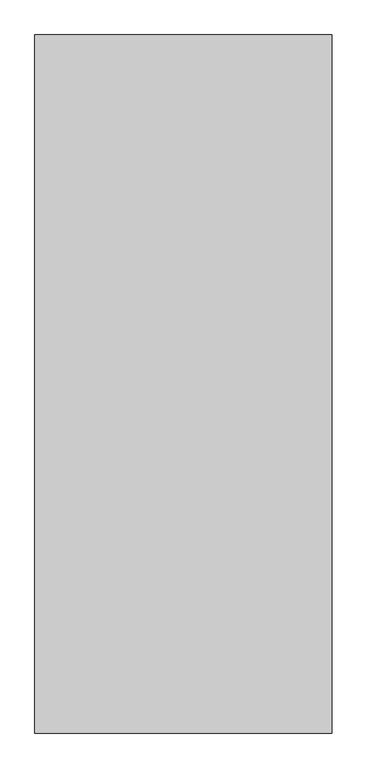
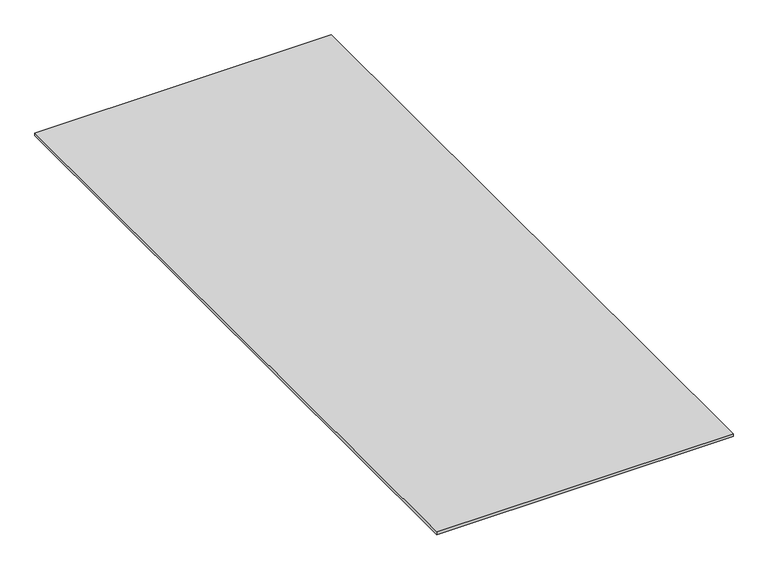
"""IFC4 building model written with IfcOpenShell, lengths in millimetres: proxy geometry, Wall-Panel-Kirei-Subway_Panels : Subway."""

from ifc_helpers import new_model, si_unit, origin, origin_with_axes, place, context, project, spatial, polyline, outline, extrude, source, transform, mapped, element, save


def specialty_equipment_f73d159b(model_context):
    return source(origin(), model_context, "Body", "SweptSolid", [
        extrude(outline(polyline([(558.8, 1371.6), (558.8, -1371.6), (-609.6, -1371.6), (-609.6, 1371.6), (558.8, 1371.6)])), origin_with_axes(), (0.0, 0.0, 1.0), 12.0054687),
    ])


if __name__ == "__main__":
    model = new_model("IFC4")
    model_context = context("Model", 3, world=origin())
    ifc_project = project(units=[si_unit("LENGTHUNIT", "METRE", prefix="MILLI")], contexts=[model_context])
    site = spatial("IfcSite", under=ifc_project)
    building = spatial("IfcBuilding", under=site)
    placement = place(None, origin())
    specialty_equipment_shape = specialty_equipment_f73d159b(model_context)
    element("IfcBuildingElementProxy", 1, Name="Wall-Panel-Kirei-Subway_Panels : Subway", ObjectType="Wall-Panel-Kirei-Subway_Panels : Subway", at=placement, inside=building, context=model_context, shape_type="MappedRepresentation", body=[
        mapped(specialty_equipment_shape, transform((0.0, 0.0, 0.0), x_axis=(1.0, 0.0, 0.0), y_axis=(0.0, 1.0, 0.0), z_axis=(0.0, 0.0, 1.0))),
    ])
    save(model, "model.ifc")
